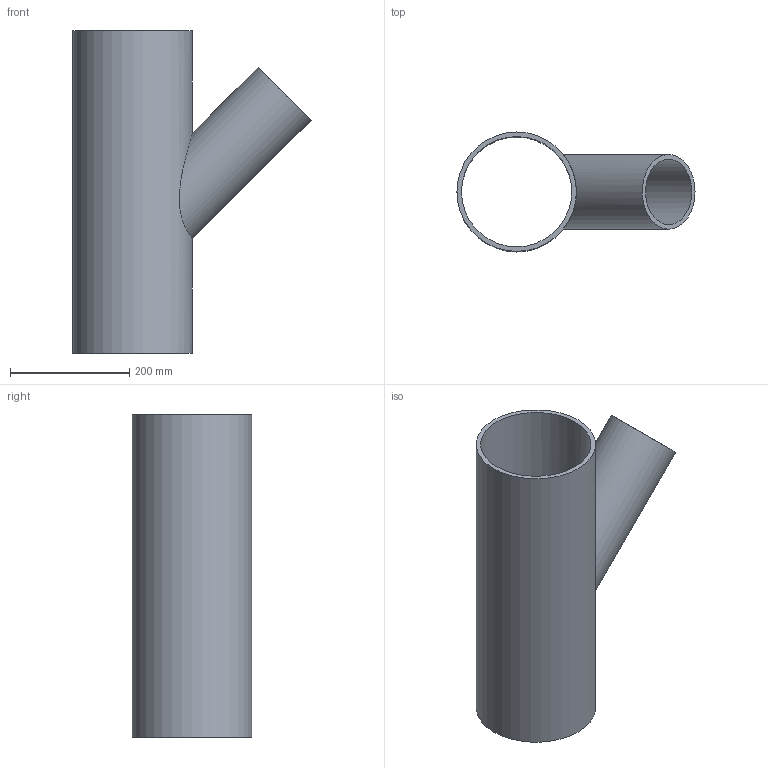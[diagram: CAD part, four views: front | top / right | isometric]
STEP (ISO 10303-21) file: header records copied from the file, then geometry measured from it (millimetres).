
FILE_DESCRIPTION(/* description */ (''),/* implementation_level */ '2;1');
FILE_NAME(/* name */ 'C:\Planerdaten\Export PLA\PRO_101557\stp\370139.stp',/* time_stamp */ '2021-09-30T15:08:44+02:00',/* author */ ('JANAN'),/* organization */ (''),/* preprocessor_version */ 'ST-DEVELOPER v16.13',/* originating_system */ 'Autodesk Inventor 2018',/* authorisation */ '');
FILE_SCHEMA (('AUTOMOTIVE_DESIGN { 1 0 10303 214 3 1 1 }'));
Length unit declared in the file: millimetre
Products named in the file (1): tmpCC2F.tmp
Bounding box: 398.75 x 200 x 540 mm (x, y, z)
Volume: 3060977.5 mm3; surface area: 807207.8 mm2
Topology: 1 solids, 1 shells, 7 faces, 17 edges, 12 vertices
Faces by surface type: cylinder 4, plane 3
Full cylindrical faces by diameter (mm): 109.6 x1, 125 x1, 184.6 x1, 200 x1
Entity records: 340 total; most frequent: CARTESIAN_POINT 162, DIRECTION 28, EDGE_LOOP 16, ORIENTED_EDGE 16, AXIS2_PLACEMENT_3D 14, FACE_BOUND 9, VERTEX_POINT 8, EDGE_CURVE 8
